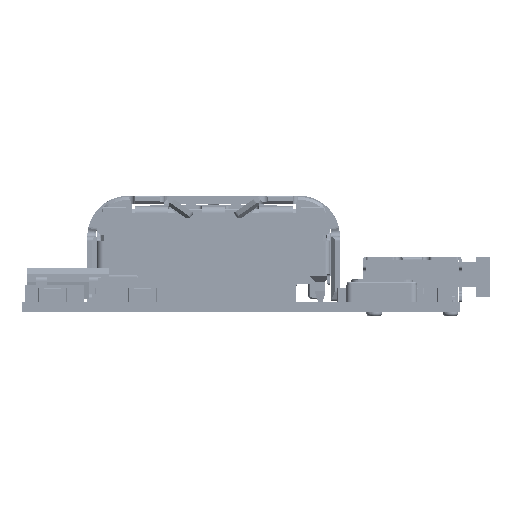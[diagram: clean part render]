
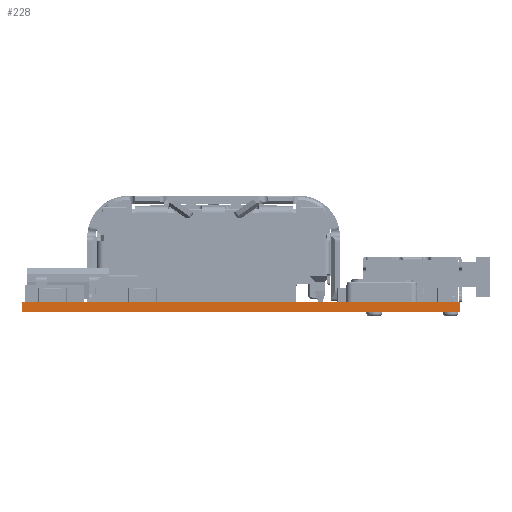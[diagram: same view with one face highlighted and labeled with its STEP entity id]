
A CAD part, left-side view. The second image highlights one B-rep face of the part: STEP entity #228.
In plain terms, the highlighted planar face has unit normal (-1, 0, 0).
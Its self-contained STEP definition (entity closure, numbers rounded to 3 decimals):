
#228 = ADVANCED_FACE('',(#229),#243,.T.);
#229 = FACE_BOUND('',#230,.T.);
#230 = EDGE_LOOP('',(#231,#266,#294,#322));
#231 = ORIENTED_EDGE('',*,*,#232,.T.);
#232 = EDGE_CURVE('',#233,#235,#237,.T.);
#233 = VERTEX_POINT('',#234);
#234 = CARTESIAN_POINT('',(0.,0.,0.));
#235 = VERTEX_POINT('',#236);
#236 = CARTESIAN_POINT('',(0.,0.,0.345));
#237 = SURFACE_CURVE('',#238,(#242,#254),.PCURVE_S1.);
#238 = LINE('',#239,#240);
#239 = CARTESIAN_POINT('',(0.,0.,0.));
#240 = VECTOR('',#241,1.);
#241 = DIRECTION('',(0.,0.,1.));
#242 = PCURVE('',#243,#248);
#243 = PLANE('',#244);
#244 = AXIS2_PLACEMENT_3D('',#245,#246,#247);
#245 = CARTESIAN_POINT('',(0.,0.,0.));
#246 = DIRECTION('',(-1.,0.,0.));
#247 = DIRECTION('',(0.,1.,0.));
#248 = DEFINITIONAL_REPRESENTATION('',(#249),#253);
#249 = LINE('',#250,#251);
#250 = CARTESIAN_POINT('',(0.,0.));
#251 = VECTOR('',#252,1.);
#252 = DIRECTION('',(0.,-1.));
#253 = ( GEOMETRIC_REPRESENTATION_CONTEXT(2) 
PARAMETRIC_REPRESENTATION_CONTEXT() REPRESENTATION_CONTEXT('2D SPACE',''
  ) );
#254 = PCURVE('',#255,#260);
#255 = PLANE('',#256);
#256 = AXIS2_PLACEMENT_3D('',#257,#258,#259);
#257 = CARTESIAN_POINT('',(33.25,0.,0.));
#258 = DIRECTION('',(0.,-1.,0.));
#259 = DIRECTION('',(-1.,0.,0.));
#260 = DEFINITIONAL_REPRESENTATION('',(#261),#265);
#261 = LINE('',#262,#263);
#262 = CARTESIAN_POINT('',(33.25,0.));
#263 = VECTOR('',#264,1.);
#264 = DIRECTION('',(0.,-1.));
#265 = ( GEOMETRIC_REPRESENTATION_CONTEXT(2) 
PARAMETRIC_REPRESENTATION_CONTEXT() REPRESENTATION_CONTEXT('2D SPACE',''
  ) );
#266 = ORIENTED_EDGE('',*,*,#267,.T.);
#267 = EDGE_CURVE('',#235,#268,#270,.T.);
#268 = VERTEX_POINT('',#269);
#269 = CARTESIAN_POINT('',(0.,15.5,0.345));
#270 = SURFACE_CURVE('',#271,(#275,#282),.PCURVE_S1.);
#271 = LINE('',#272,#273);
#272 = CARTESIAN_POINT('',(0.,0.,0.345));
#273 = VECTOR('',#274,1.);
#274 = DIRECTION('',(0.,1.,0.));
#275 = PCURVE('',#243,#276);
#276 = DEFINITIONAL_REPRESENTATION('',(#277),#281);
#277 = LINE('',#278,#279);
#278 = CARTESIAN_POINT('',(0.,-0.345));
#279 = VECTOR('',#280,1.);
#280 = DIRECTION('',(1.,0.));
#281 = ( GEOMETRIC_REPRESENTATION_CONTEXT(2) 
PARAMETRIC_REPRESENTATION_CONTEXT() REPRESENTATION_CONTEXT('2D SPACE',''
  ) );
#282 = PCURVE('',#283,#288);
#283 = PLANE('',#284);
#284 = AXIS2_PLACEMENT_3D('',#285,#286,#287);
#285 = CARTESIAN_POINT('',(0.,0.,0.345));
#286 = DIRECTION('',(0.,0.,1.));
#287 = DIRECTION('',(1.,0.,0.));
#288 = DEFINITIONAL_REPRESENTATION('',(#289),#293);
#289 = LINE('',#290,#291);
#290 = CARTESIAN_POINT('',(0.,0.));
#291 = VECTOR('',#292,1.);
#292 = DIRECTION('',(0.,1.));
#293 = ( GEOMETRIC_REPRESENTATION_CONTEXT(2) 
PARAMETRIC_REPRESENTATION_CONTEXT() REPRESENTATION_CONTEXT('2D SPACE',''
  ) );
#294 = ORIENTED_EDGE('',*,*,#295,.F.);
#295 = EDGE_CURVE('',#296,#268,#298,.T.);
#296 = VERTEX_POINT('',#297);
#297 = CARTESIAN_POINT('',(0.,15.5,0.));
#298 = SURFACE_CURVE('',#299,(#303,#310),.PCURVE_S1.);
#299 = LINE('',#300,#301);
#300 = CARTESIAN_POINT('',(0.,15.5,0.));
#301 = VECTOR('',#302,1.);
#302 = DIRECTION('',(0.,0.,1.));
#303 = PCURVE('',#243,#304);
#304 = DEFINITIONAL_REPRESENTATION('',(#305),#309);
#305 = LINE('',#306,#307);
#306 = CARTESIAN_POINT('',(15.5,0.));
#307 = VECTOR('',#308,1.);
#308 = DIRECTION('',(0.,-1.));
#309 = ( GEOMETRIC_REPRESENTATION_CONTEXT(2) 
PARAMETRIC_REPRESENTATION_CONTEXT() REPRESENTATION_CONTEXT('2D SPACE',''
  ) );
#310 = PCURVE('',#311,#316);
#311 = PLANE('',#312);
#312 = AXIS2_PLACEMENT_3D('',#313,#314,#315);
#313 = CARTESIAN_POINT('',(0.,15.5,0.));
#314 = DIRECTION('',(0.,1.,0.));
#315 = DIRECTION('',(1.,0.,0.));
#316 = DEFINITIONAL_REPRESENTATION('',(#317),#321);
#317 = LINE('',#318,#319);
#318 = CARTESIAN_POINT('',(0.,0.));
#319 = VECTOR('',#320,1.);
#320 = DIRECTION('',(0.,-1.));
#321 = ( GEOMETRIC_REPRESENTATION_CONTEXT(2) 
PARAMETRIC_REPRESENTATION_CONTEXT() REPRESENTATION_CONTEXT('2D SPACE',''
  ) );
#322 = ORIENTED_EDGE('',*,*,#323,.F.);
#323 = EDGE_CURVE('',#233,#296,#324,.T.);
#324 = SURFACE_CURVE('',#325,(#329,#336),.PCURVE_S1.);
#325 = LINE('',#326,#327);
#326 = CARTESIAN_POINT('',(0.,0.,0.));
#327 = VECTOR('',#328,1.);
#328 = DIRECTION('',(0.,1.,0.));
#329 = PCURVE('',#243,#330);
#330 = DEFINITIONAL_REPRESENTATION('',(#331),#335);
#331 = LINE('',#332,#333);
#332 = CARTESIAN_POINT('',(0.,0.));
#333 = VECTOR('',#334,1.);
#334 = DIRECTION('',(1.,0.));
#335 = ( GEOMETRIC_REPRESENTATION_CONTEXT(2) 
PARAMETRIC_REPRESENTATION_CONTEXT() REPRESENTATION_CONTEXT('2D SPACE',''
  ) );
#336 = PCURVE('',#337,#342);
#337 = PLANE('',#338);
#338 = AXIS2_PLACEMENT_3D('',#339,#340,#341);
#339 = CARTESIAN_POINT('',(0.,0.,0.));
#340 = DIRECTION('',(0.,0.,1.));
#341 = DIRECTION('',(1.,0.,0.));
#342 = DEFINITIONAL_REPRESENTATION('',(#343),#347);
#343 = LINE('',#344,#345);
#344 = CARTESIAN_POINT('',(0.,0.));
#345 = VECTOR('',#346,1.);
#346 = DIRECTION('',(0.,1.));
#347 = ( GEOMETRIC_REPRESENTATION_CONTEXT(2) 
PARAMETRIC_REPRESENTATION_CONTEXT() REPRESENTATION_CONTEXT('2D SPACE',''
  ) );
